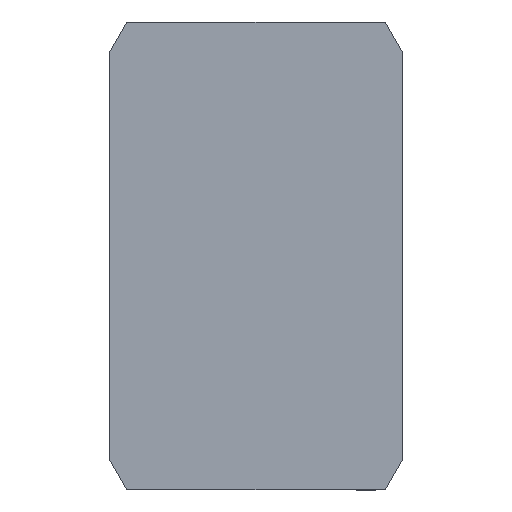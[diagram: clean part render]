
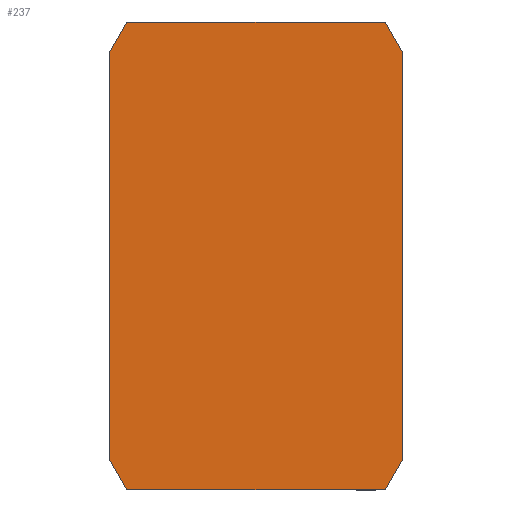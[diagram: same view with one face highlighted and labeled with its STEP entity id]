
A CAD part, top view. The second image highlights one B-rep face of the part: STEP entity #237.
In plain terms, the highlighted planar face has unit normal (0, 0, 1).
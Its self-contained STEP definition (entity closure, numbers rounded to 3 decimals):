
#2 = ORIENTED_EDGE ( 'NONE', *, *, #247, .T. ) ;
#11 = ORIENTED_EDGE ( 'NONE', *, *, #426, .T. ) ;
#34 = ORIENTED_EDGE ( 'NONE', *, *, #526, .T. ) ;
#41 = ORIENTED_EDGE ( 'NONE', *, *, #325, .T. ) ;
#42 = ORIENTED_EDGE ( 'NONE', *, *, #337, .T. ) ;
#55 = ORIENTED_EDGE ( 'NONE', *, *, #417, .T. ) ;
#60 = EDGE_CURVE ( 'NONE', #345, #285, #313, .T. ) ;
#67 = DIRECTION ( 'NONE',  ( 1., 0., 0. ) ) ;
#94 = VERTEX_POINT ( 'NONE', #435 ) ;
#95 = CARTESIAN_POINT ( 'NONE',  ( 8.845, -16., 5.5 ) ) ;
#103 = CARTESIAN_POINT ( 'NONE',  ( 10., 14., 5.5 ) ) ;
#123 = CARTESIAN_POINT ( 'NONE',  ( 10., 14., 5.5 ) ) ;
#132 = DIRECTION ( 'NONE',  ( 0.5, -0.866, 0. ) ) ;
#135 = CARTESIAN_POINT ( 'NONE',  ( -10., -14., 5.5 ) ) ;
#151 = CARTESIAN_POINT ( 'NONE',  ( -10., 0., 5.5 ) ) ;
#157 = VERTEX_POINT ( 'NONE', #95 ) ;
#166 = ORIENTED_EDGE ( 'NONE', *, *, #519, .T. ) ;
#177 = CARTESIAN_POINT ( 'NONE',  ( -10., 14., 5.5 ) ) ;
#195 = DIRECTION ( 'NONE',  ( -1., 0., 0. ) ) ;
#196 = CARTESIAN_POINT ( 'NONE',  ( 10., 0., 5.5 ) ) ;
#224 = AXIS2_PLACEMENT_3D ( 'NONE', #594, #596, #602 ) ;
#229 = VECTOR ( 'NONE', #195, 1000. ) ;
#237 = ADVANCED_FACE ( 'NONE', ( #489 ), #403, .T. ) ;
#242 = CARTESIAN_POINT ( 'NONE',  ( -10., -14., 5.5 ) ) ;
#245 = DIRECTION ( 'NONE',  ( 0.5, 0.866, 0. ) ) ;
#247 = EDGE_CURVE ( 'NONE', #157, #94, #497, .T. ) ;
#253 = LINE ( 'NONE', #563, #229 ) ;
#266 = VECTOR ( 'NONE', #245, 1000. ) ;
#271 = LINE ( 'NONE', #196, #422 ) ;
#277 = EDGE_LOOP ( 'NONE', ( #55, #11, #2, #34, #41, #166, #453, #42 ) ) ;
#285 = VERTEX_POINT ( 'NONE', #177 ) ;
#313 = LINE ( 'NONE', #618, #537 ) ;
#322 = VERTEX_POINT ( 'NONE', #601 ) ;
#325 = EDGE_CURVE ( 'NONE', #386, #374, #477, .T. ) ;
#337 = EDGE_CURVE ( 'NONE', #285, #574, #614, .T. ) ;
#345 = VERTEX_POINT ( 'NONE', #424 ) ;
#374 = VERTEX_POINT ( 'NONE', #581 ) ;
#386 = VERTEX_POINT ( 'NONE', #123 ) ;
#393 = DIRECTION ( 'NONE',  ( -0.5, -0.866, 0. ) ) ;
#403 = PLANE ( 'NONE',  #224 ) ;
#409 = DIRECTION ( 'NONE',  ( 0., -1., 0. ) ) ;
#411 = DIRECTION ( 'NONE',  ( 0., 1., 0. ) ) ;
#417 = EDGE_CURVE ( 'NONE', #574, #322, #587, .T. ) ;
#422 = VECTOR ( 'NONE', #411, 1000. ) ;
#424 = CARTESIAN_POINT ( 'NONE',  ( -8.845, 16., 5.5 ) ) ;
#426 = EDGE_CURVE ( 'NONE', #322, #157, #619, .T. ) ;
#427 = DIRECTION ( 'NONE',  ( -0.5, 0.866, 0. ) ) ;
#435 = CARTESIAN_POINT ( 'NONE',  ( 10., -14., 5.5 ) ) ;
#453 = ORIENTED_EDGE ( 'NONE', *, *, #60, .T. ) ;
#459 = VECTOR ( 'NONE', #67, 1000. ) ;
#461 = VECTOR ( 'NONE', #409, 1000. ) ;
#477 = LINE ( 'NONE', #103, #611 ) ;
#487 = VECTOR ( 'NONE', #132, 1000. ) ;
#489 = FACE_OUTER_BOUND ( 'NONE', #277, .T. ) ;
#497 = LINE ( 'NONE', #630, #266 ) ;
#519 = EDGE_CURVE ( 'NONE', #374, #345, #253, .T. ) ;
#526 = EDGE_CURVE ( 'NONE', #94, #386, #271, .T. ) ;
#537 = VECTOR ( 'NONE', #393, 1000. ) ;
#563 = CARTESIAN_POINT ( 'NONE',  ( 0., 16., 5.5 ) ) ;
#574 = VERTEX_POINT ( 'NONE', #242 ) ;
#581 = CARTESIAN_POINT ( 'NONE',  ( 8.845, 16., 5.5 ) ) ;
#587 = LINE ( 'NONE', #135, #487 ) ;
#594 = CARTESIAN_POINT ( 'NONE',  ( 0., 0., 5.5 ) ) ;
#596 = DIRECTION ( 'NONE',  ( 0., 0., 1. ) ) ;
#601 = CARTESIAN_POINT ( 'NONE',  ( -8.845, -16., 5.5 ) ) ;
#602 = DIRECTION ( 'NONE',  ( 1., 0., 0. ) ) ;
#611 = VECTOR ( 'NONE', #427, 1000. ) ;
#614 = LINE ( 'NONE', #151, #461 ) ;
#616 = CARTESIAN_POINT ( 'NONE',  ( 0., -16., 5.5 ) ) ;
#618 = CARTESIAN_POINT ( 'NONE',  ( -8.845, 16., 5.5 ) ) ;
#619 = LINE ( 'NONE', #616, #459 ) ;
#630 = CARTESIAN_POINT ( 'NONE',  ( 8.845, -16., 5.5 ) ) ;
